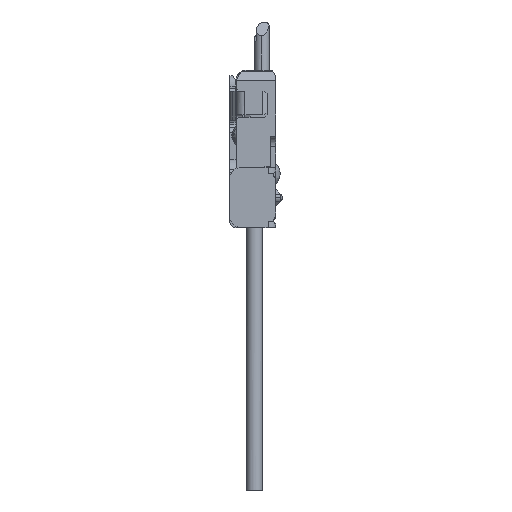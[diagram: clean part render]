
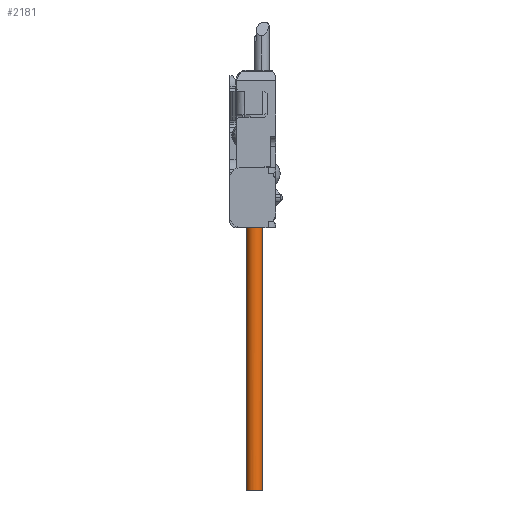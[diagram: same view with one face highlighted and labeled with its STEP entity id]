
A CAD part, left-side view. The second image highlights one B-rep face of the part: STEP entity #2181.
In plain terms, the highlighted cylindrical face has radius 0.155 mm (diameter 0.31 mm), a partial arc.
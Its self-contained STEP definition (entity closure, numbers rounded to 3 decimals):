
#245 = CARTESIAN_POINT ( 'NONE',  ( -4.75, 0.67, -2.47 ) ) ;
#839 = DIRECTION ( 'NONE',  ( 0., -1., 0. ) ) ;
#1660 = EDGE_CURVE ( 'NONE', #17521, #5417, #13003, .T. ) ;
#2181 = ADVANCED_FACE ( 'NONE', ( #29709 ), #6609, .T. ) ;
#4516 = AXIS2_PLACEMENT_3D ( 'NONE', #35634, #32693, #27390 ) ;
#4781 = EDGE_CURVE ( 'NONE', #20993, #5131, #5198, .T. ) ;
#5131 = VERTEX_POINT ( 'NONE', #31980 ) ;
#5198 = LINE ( 'NONE', #6461, #7462 ) ;
#5312 = DIRECTION ( 'NONE',  ( 0., 0., 1. ) ) ;
#5417 = VERTEX_POINT ( 'NONE', #18254 ) ;
#5445 = CARTESIAN_POINT ( 'NONE',  ( -4.75, 0.36, -2.47 ) ) ;
#6461 = CARTESIAN_POINT ( 'NONE',  ( -4.9, 0.554, -7.6 ) ) ;
#6609 = CYLINDRICAL_SURFACE ( 'NONE', #8913, 0.155 ) ;
#7462 = VECTOR ( 'NONE', #32585, 1000. ) ;
#8626 = DIRECTION ( 'NONE',  ( 0., 0., -1. ) ) ;
#8722 = DIRECTION ( 'NONE',  ( 0., -1., 0. ) ) ;
#8913 = AXIS2_PLACEMENT_3D ( 'NONE', #18188, #26834, #839 ) ;
#9081 = ORIENTED_EDGE ( 'NONE', *, *, #31425, .T. ) ;
#9152 = ORIENTED_EDGE ( 'NONE', *, *, #24321, .T. ) ;
#9159 = CIRCLE ( 'NONE', #26279, 0.155 ) ;
#9512 = CARTESIAN_POINT ( 'NONE',  ( -4.9, 0.476, -2.47 ) ) ;
#10185 = VERTEX_POINT ( 'NONE', #28484 ) ;
#10623 = ORIENTED_EDGE ( 'NONE', *, *, #4781, .T. ) ;
#11078 = CIRCLE ( 'NONE', #4516, 0.155 ) ;
#11849 = EDGE_CURVE ( 'NONE', #10185, #20429, #21607, .T. ) ;
#13003 = LINE ( 'NONE', #25655, #30639 ) ;
#13827 = ORIENTED_EDGE ( 'NONE', *, *, #30994, .T. ) ;
#14853 = CARTESIAN_POINT ( 'NONE',  ( -4.75, 0.36, -7.6 ) ) ;
#16738 = ORIENTED_EDGE ( 'NONE', *, *, #1660, .T. ) ;
#16773 = EDGE_LOOP ( 'NONE', ( #17583, #9152, #30150, #25264, #16738, #13827, #10623, #9081 ) ) ;
#17521 = VERTEX_POINT ( 'NONE', #9512 ) ;
#17583 = ORIENTED_EDGE ( 'NONE', *, *, #11849, .F. ) ;
#17876 = LINE ( 'NONE', #24348, #28815 ) ;
#18188 = CARTESIAN_POINT ( 'NONE',  ( -4.75, 0.515, -7.6 ) ) ;
#18254 = CARTESIAN_POINT ( 'NONE',  ( -4.9, 0.476, -2.11 ) ) ;
#18874 = EDGE_CURVE ( 'NONE', #37324, #17521, #9159, .T. ) ;
#20429 = VERTEX_POINT ( 'NONE', #245 ) ;
#20490 = DIRECTION ( 'NONE',  ( 0., 0., -1. ) ) ;
#20494 = VERTEX_POINT ( 'NONE', #14853 ) ;
#20993 = VERTEX_POINT ( 'NONE', #24998 ) ;
#21607 = LINE ( 'NONE', #31563, #32015 ) ;
#23438 = DIRECTION ( 'NONE',  ( 0., -1., 0. ) ) ;
#23851 = CIRCLE ( 'NONE', #30753, 0.155 ) ;
#24321 = EDGE_CURVE ( 'NONE', #10185, #20494, #11078, .T. ) ;
#24348 = CARTESIAN_POINT ( 'NONE',  ( -4.75, 0.36, -7.6 ) ) ;
#24998 = CARTESIAN_POINT ( 'NONE',  ( -4.9, 0.554, -2.11 ) ) ;
#25264 = ORIENTED_EDGE ( 'NONE', *, *, #18874, .T. ) ;
#25632 = CARTESIAN_POINT ( 'NONE',  ( -4.75, 0.515, -2.47 ) ) ;
#25655 = CARTESIAN_POINT ( 'NONE',  ( -4.9, 0.476, -2.47 ) ) ;
#26279 = AXIS2_PLACEMENT_3D ( 'NONE', #25632, #31923, #8722 ) ;
#26454 = CARTESIAN_POINT ( 'NONE',  ( -4.75, 0.515, -2.47 ) ) ;
#26834 = DIRECTION ( 'NONE',  ( 0., 0., 1. ) ) ;
#27240 = DIRECTION ( 'NONE',  ( 0., 0., 1. ) ) ;
#27390 = DIRECTION ( 'NONE',  ( 0., -1., 0. ) ) ;
#27877 = CIRCLE ( 'NONE', #33933, 0.155 ) ;
#28484 = CARTESIAN_POINT ( 'NONE',  ( -4.75, 0.67, -7.6 ) ) ;
#28815 = VECTOR ( 'NONE', #27240, 1000. ) ;
#29181 = CARTESIAN_POINT ( 'NONE',  ( -4.75, 0.515, -2.11 ) ) ;
#29709 = FACE_OUTER_BOUND ( 'NONE', #16773, .T. ) ;
#30150 = ORIENTED_EDGE ( 'NONE', *, *, #35819, .T. ) ;
#30639 = VECTOR ( 'NONE', #34375, 1000. ) ;
#30753 = AXIS2_PLACEMENT_3D ( 'NONE', #29181, #8626, #31824 ) ;
#30994 = EDGE_CURVE ( 'NONE', #5417, #20993, #23851, .T. ) ;
#31425 = EDGE_CURVE ( 'NONE', #5131, #20429, #27877, .T. ) ;
#31563 = CARTESIAN_POINT ( 'NONE',  ( -4.75, 0.67, -7.6 ) ) ;
#31824 = DIRECTION ( 'NONE',  ( 0., -1., 0. ) ) ;
#31923 = DIRECTION ( 'NONE',  ( 0., 0., -1. ) ) ;
#31980 = CARTESIAN_POINT ( 'NONE',  ( -4.9, 0.554, -2.47 ) ) ;
#32015 = VECTOR ( 'NONE', #5312, 1000. ) ;
#32585 = DIRECTION ( 'NONE',  ( 0., 0., -1. ) ) ;
#32693 = DIRECTION ( 'NONE',  ( 0., 0., 1. ) ) ;
#33933 = AXIS2_PLACEMENT_3D ( 'NONE', #26454, #20490, #23438 ) ;
#34375 = DIRECTION ( 'NONE',  ( 0., 0., 1. ) ) ;
#35634 = CARTESIAN_POINT ( 'NONE',  ( -4.75, 0.515, -7.6 ) ) ;
#35819 = EDGE_CURVE ( 'NONE', #20494, #37324, #17876, .T. ) ;
#37324 = VERTEX_POINT ( 'NONE', #5445 ) ;
